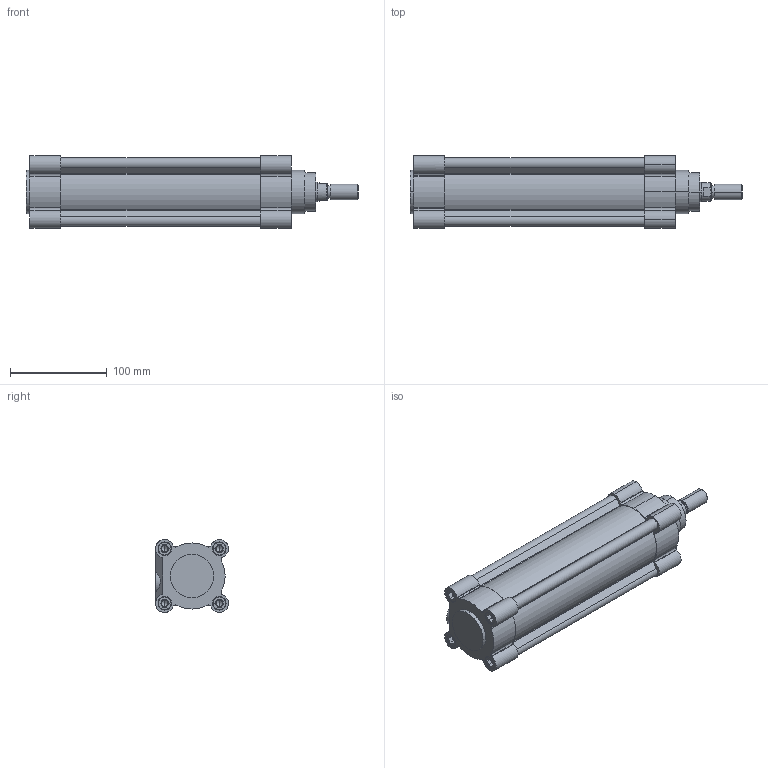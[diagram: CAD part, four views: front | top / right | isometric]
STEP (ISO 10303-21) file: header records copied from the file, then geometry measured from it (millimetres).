
FILE_DESCRIPTION (( 'STEP AP203' ), '1' );
FILE_NAME ('CPME63-150.STEP', '2023-05-25T13:39:14', ( '' ), ( '' ), 'SwSTEP 2.0', 'SolidWorks 2019', '' );
FILE_SCHEMA (( 'CONFIG_CONTROL_DESIGN' ));
Length unit declared in the file: millimetre
Products named in the file (1): CPME63-150
Bounding box: 344 x 75.53 x 75.5 mm (x, y, z)
Volume: 801827.2 mm3; surface area: 212947.2 mm2
Topology: 4 solids, 4 shells, 394 faces, 971 edges, 602 vertices
Faces by surface type: plane 185, cylinder 165, cone 44
Entity records: 11618 total; most frequent: DIRECTION 2119, CARTESIAN_POINT 2018, ORIENTED_EDGE 1902, EDGE_CURVE 951, AXIS2_PLACEMENT_3D 783, VERTEX_POINT 602, LINE 553, VECTOR 553
